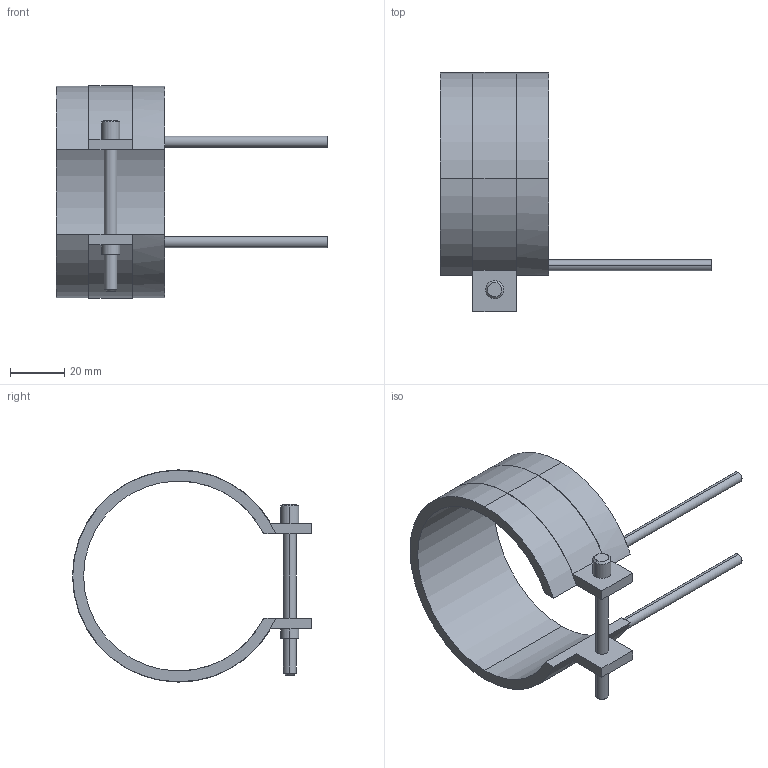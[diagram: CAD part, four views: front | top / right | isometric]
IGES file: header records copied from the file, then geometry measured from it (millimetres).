
Start section: START RECORD GO HERE.
Global section: file name: 14070040.igs; native system: DASSAULT SYSTEMES CATIA V5 R20 - www.3ds.com; preprocessor: CATIA Version 5 Release 20 ; author: Utente; organization: NB04-ASUS; date: 20210401.114651; units: millimetre
Bounding box: 100 x 88.1 x 78.2 mm (x, y, z)
Surface area: 21493.9 mm2 (no closed solid volume)
Topology: 0 solids, 0 shells, 45 faces, 232 edges, 232 vertices
Faces by surface type: revolution 28, plane 17
